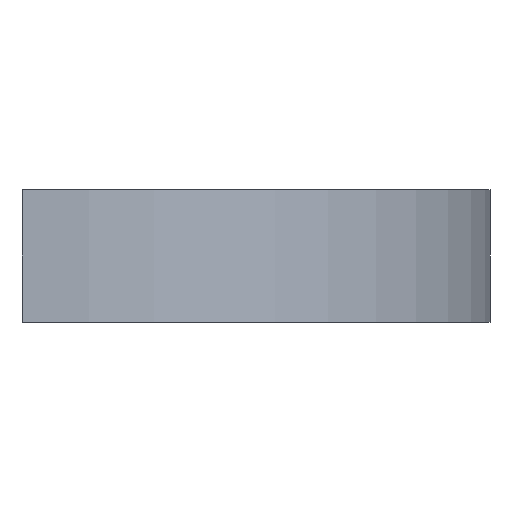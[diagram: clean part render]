
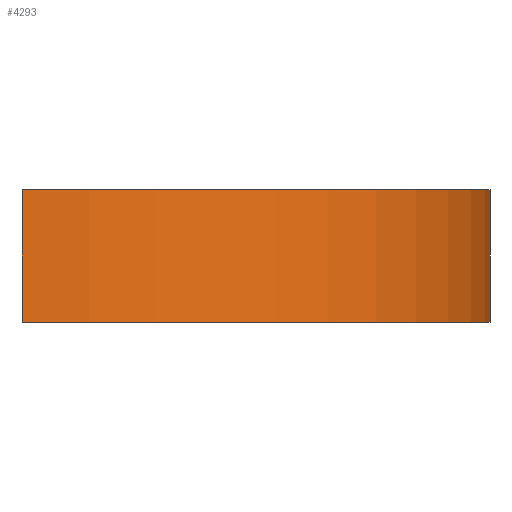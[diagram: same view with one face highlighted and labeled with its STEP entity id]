
A CAD part, front view. The second image highlights one B-rep face of the part: STEP entity #4293.
In plain terms, the highlighted cylindrical face has radius 90 mm (diameter 180 mm), a partial arc.
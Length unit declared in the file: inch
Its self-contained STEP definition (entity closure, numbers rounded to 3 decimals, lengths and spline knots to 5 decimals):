
#4235=CARTESIAN_POINT('',(1.77165,1.77165,1.0));
#4236=VERTEX_POINT('',#4235);
#4243=CARTESIAN_POINT('',(1.77165,1.77165,0.0));
#4244=VERTEX_POINT('',#4243);
#4245=CARTESIAN_POINT('',(1.77165,1.77165,0.0));
#4246=DIRECTION('',(0.0,0.0,1.0));
#4247=VECTOR('',#4246,1.0);
#4248=LINE('',#4245,#4247);
#4249=EDGE_CURVE('',#4244,#4236,#4248,.T.);
#4261=CARTESIAN_POINT('',(-1.77165,1.77165,0.0));
#4262=DIRECTION('',(0.0,0.0,1.0));
#4263=DIRECTION('',(0.0,-1.0,0.0));
#4264=AXIS2_PLACEMENT_3D('',#4261,#4262,#4263);
#4265=CYLINDRICAL_SURFACE('',#4264,3.54331);
#4266=CARTESIAN_POINT('',(-1.77165,-1.77165,1.0));
#4267=VERTEX_POINT('',#4266);
#4268=CARTESIAN_POINT('',(-1.77165,1.77165,1.0));
#4269=DIRECTION('',(0.0,0.0,-1.0));
#4270=DIRECTION('',(0.0,-1.0,0.0));
#4271=AXIS2_PLACEMENT_3D('',#4268,#4269,#4270);
#4272=CIRCLE('',#4271,3.54331);
#4273=EDGE_CURVE('',#4236,#4267,#4272,.T.);
#4274=ORIENTED_EDGE('',*,*,#4273,.T.);
#4275=CARTESIAN_POINT('',(-1.77165,-1.77165,0.0));
#4276=VERTEX_POINT('',#4275);
#4277=CARTESIAN_POINT('',(-1.77165,-1.77165,0.0));
#4278=DIRECTION('',(0.0,0.0,1.0));
#4279=VECTOR('',#4278,1.0);
#4280=LINE('',#4277,#4279);
#4281=EDGE_CURVE('',#4276,#4267,#4280,.T.);
#4282=ORIENTED_EDGE('',*,*,#4281,.F.);
#4283=CARTESIAN_POINT('',(-1.77165,1.77165,0.0));
#4284=DIRECTION('',(0.0,0.0,1.0));
#4285=DIRECTION('',(0.0,-1.0,0.0));
#4286=AXIS2_PLACEMENT_3D('',#4283,#4284,#4285);
#4287=CIRCLE('',#4286,3.54331);
#4288=EDGE_CURVE('',#4276,#4244,#4287,.T.);
#4289=ORIENTED_EDGE('',*,*,#4288,.T.);
#4290=ORIENTED_EDGE('',*,*,#4249,.T.);
#4291=EDGE_LOOP('',(#4274,#4282,#4289,#4290));
#4292=FACE_OUTER_BOUND('',#4291,.T.);
#4293=ADVANCED_FACE('',(#4292),#4265,.T.);
